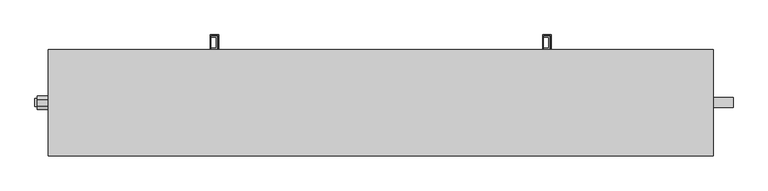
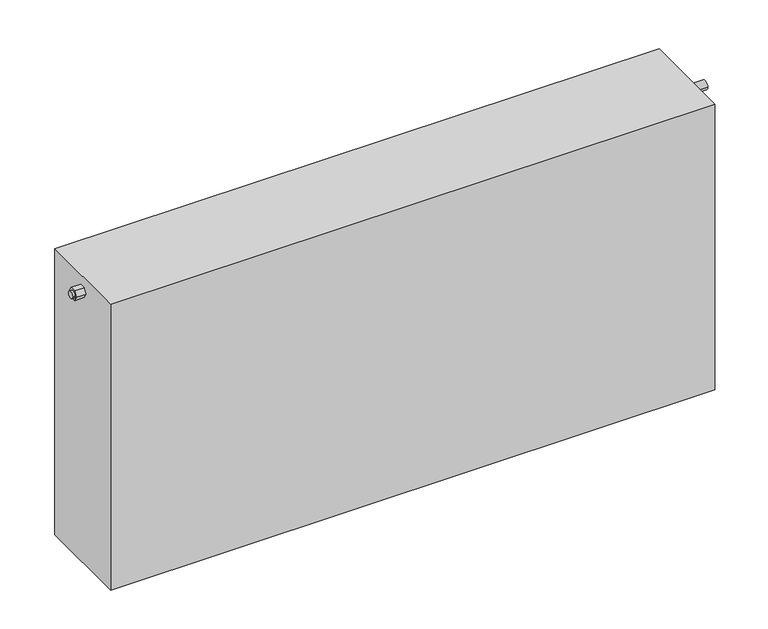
"""IFC4 building model written with IfcOpenShell, lengths in millimetres: proxy geometry, ADSK_Радиатор_СтальнойПанельный : 33_500_1000."""

from ifc_helpers import new_model, si_unit, point, frame, frame_2d, origin, place, context, project, spatial, polyline, circle_curve, trimmed, segment, composite_curve, outline, extrude, source, transform, mapped, element, save
from ifc_brep_helpers import plane_surface, cylinder_surface, advanced_brep


def mechanical_equipment_f235ed72(model_context):
    return source(origin(), model_context, "Body", "SolidModel", [
        extrude(outline(polyline([(454.542649, -29.589015), (454.542649, -49.589015), (445.411704, -49.589015), (445.411704, -47.609118), (452.490403, -47.609118), (452.490403, -38.8242061), (452.490403, -31.5689121), (445.411704, -31.5689121), (445.411704, -29.589015), (454.542649, -29.589015)])), frame((0.0, 0.0, 175.0), z_axis=(0.0, 0.0, 1.0), x_axis=(1.0, 0.0, 0.0)), (0.0, 0.0, 1.0), 350.0),
        extrude(outline(polyline([(456.3350832, -27.7938187), (456.3350832, -73.0037765), (443.3943158, -73.0037765), (443.3943158, -27.7938187), (456.3350832, -27.7938187)]), holes=[polyline([(454.9194272, -29.2790933), (445.0216716, -29.2790933), (445.0216716, -50.0), (454.9194272, -50.0), (454.9194272, -29.2790933)])]), frame((0.0, 0.0, 490.0061306), z_axis=(0.0, 0.0, 1.0), x_axis=(1.0, 0.0, 0.0)), (0.0, 0.0, 1.0), 9.9938694),
        extrude(outline(polyline([(456.3350832, -27.7938187), (456.3350832, -73.0037765), (443.3943158, -73.0037765), (443.3943158, -27.7938187), (456.3350832, -27.7938187)]), holes=[polyline([(454.9194272, -29.2790933), (445.0216716, -29.2790933), (445.0216716, -50.0), (454.9194272, -50.0), (454.9194272, -29.2790933)])]), frame((0.0, 0.0, 200.0), z_axis=(0.0, 0.0, 1.0), x_axis=(1.0, 0.0, 0.0)), (0.0, 0.0, 1.0), 9.9938694),
        extrude(outline(polyline([(-45.457351, -29.589015), (-45.457351, -49.589015), (-54.588296, -49.589015), (-54.588296, -47.609118), (-47.509597, -47.609118), (-47.509597, -38.8242061), (-47.509597, -31.5689121), (-54.588296, -31.5689121), (-54.588296, -29.589015), (-45.457351, -29.589015)])), frame((0.0, 0.0, 175.0), z_axis=(0.0, 0.0, 1.0), x_axis=(1.0, 0.0, 0.0)), (0.0, 0.0, 1.0), 350.0),
        extrude(outline(polyline([(-43.6649168, -27.7938187), (-43.6649168, -73.0037765), (-56.6056842, -73.0037765), (-56.6056842, -27.7938187), (-43.6649168, -27.7938187)]), holes=[polyline([(-45.0805728, -29.2790933), (-54.9783284, -29.2790933), (-54.9783284, -50.0), (-45.0805728, -50.0), (-45.0805728, -29.2790933)])]), frame((0.0, 0.0, 490.0061306), z_axis=(0.0, 0.0, 1.0), x_axis=(1.0, 0.0, 0.0)), (0.0, 0.0, 1.0), 9.9938694),
        extrude(outline(polyline([(-43.6649168, -27.7938187), (-43.6649168, -73.0037765), (-56.6056842, -73.0037765), (-56.6056842, -27.7938187), (-43.6649168, -27.7938187)]), holes=[polyline([(-45.0805728, -29.2790933), (-54.9783284, -29.2790933), (-54.9783284, -50.0), (-45.0805728, -50.0), (-45.0805728, -29.2790933)])]), frame((0.0, 0.0, 200.0), z_axis=(0.0, 0.0, 1.0), x_axis=(1.0, 0.0, 0.0)), (0.0, 0.0, 1.0), 9.9938694),
        extrude(outline(composite_curve([segment(trimmed(circle_curve(frame_2d((-130.0, 125.0)), 7.5), [point((-137.5, 125.0))], [point((-122.5, 125.0))], False, "CARTESIAN"), True, "CONTINUOUS"), segment(trimmed(circle_curve(frame_2d((-130.0, 125.0)), 7.5), [point((-122.5, 125.0))], [point((-137.5, 125.0))], False, "CARTESIAN"), True, "CONTINUOUS")], self_intersect=False)), frame((700.0, 0.0, 0.0), z_axis=(1.0, 0.0, 0.0), x_axis=(0.0, 1.0, 0.0)), (0.0, 0.0, 1.0), 30.0),
        extrude(outline(composite_curve([segment(trimmed(circle_curve(frame_2d((-130.0, 575.0)), 7.5), [point((-137.5, 575.0))], [point((-122.5, 575.0))], False, "CARTESIAN"), True, "CONTINUOUS"), segment(trimmed(circle_curve(frame_2d((-130.0, 575.0)), 7.5), [point((-122.5, 575.0))], [point((-137.5, 575.0))], False, "CARTESIAN"), True, "CONTINUOUS")], self_intersect=False)), frame((700.0, 0.0, 0.0), z_axis=(1.0, 0.0, 0.0), x_axis=(0.0, 1.0, 0.0)), (0.0, 0.0, 1.0), 30.0),
        extrude(outline(polyline([(700.0, -50.0), (700.0, -210.0), (-300.0, -210.0), (-300.0, -50.0), (700.0, -50.0)])), frame((0.0, 0.0, 100.0), z_axis=(0.0, 0.0, 1.0), x_axis=(1.0, 0.0, 0.0)), (0.0, 0.0, 1.0), 500.0),
        advanced_brep(
        [(-320.0, -136.0, 575.0), (-320.0, -124.0, 575.0), (-316.1885654, -124.0, 575.0), (-316.1885654, -136.0, 575.0), (-316.1885654, -135.0, 566.339746), (-316.1885654, -140.0, 575.0), (-316.1885654, -135.0, 583.660254), (-316.1885654, -125.0, 583.660254), (-316.1885654, -120.0, 575.0), (-316.1885654, -125.0, 566.339746), (-300.0, -135.0, 566.339746), (-300.0, -125.0, 566.339746), (-300.0, -120.0, 575.0), (-300.0, -125.0, 583.660254), (-300.0, -135.0, 583.660254), (-300.0, -140.0, 575.0)],
        [
            (0, 1, circle_curve(frame((-320.0, -130.0, 575.0), z_axis=(-1.0, 0.0, 0.0), x_axis=(0.0, 1.0, 0.0)), 6.0)),
            (1, 0, circle_curve(frame((-320.0, -130.0, 575.0), z_axis=(-1.0, 0.0, 0.0), x_axis=(0.0, 1.0, 0.0)), 6.0)),
            (1, 2),
            (2, 3, circle_curve(frame((-316.1885654, -130.0, 575.0), z_axis=(-1.0, 0.0, 0.0), x_axis=(0.0, 1.0, 0.0)), 6.0)),
            (3, 0),
            (3, 2, circle_curve(frame((-316.1885654, -130.0, 575.0), z_axis=(-1.0, 0.0, 0.0), x_axis=(0.0, 1.0, 0.0)), 6.0)),
            (4, 5),
            (5, 6),
            (6, 7),
            (7, 8),
            (8, 9),
            (9, 4),
            (10, 11),
            (11, 12),
            (12, 13),
            (13, 14),
            (14, 15),
            (15, 10),
            (9, 11),
            (10, 4),
            (8, 12),
            (7, 13),
            (6, 14),
            (5, 15),
        ],
        [
            plane_surface(frame((-320.0, -124.0, 575.0), z_axis=(-1.0, 0.0, 0.0), x_axis=(0.0, 0.0, -1.0))),
            cylinder_surface(frame((-320.0, -130.0, 575.0), z_axis=(1.0, 0.0, 0.0), x_axis=(0.0, 1.0, 0.0)), 6.0),
            plane_surface(frame((-316.1885654, -135.0, 566.339746), z_axis=(-1.0, 0.0, 0.0), x_axis=(0.0, -1.0, 0.0))),
            plane_surface(frame((-300.0, -135.0, 566.339746), z_axis=(1.0, 0.0, 0.0), x_axis=(0.0, 1.0, 0.0))),
            plane_surface(frame((-300.0, -135.0, 566.339746), z_axis=(0.0, 0.0, -1.0), x_axis=(-1.0, 0.0, 0.0))),
            plane_surface(frame((-300.0, -125.0, 566.339746), z_axis=(0.0, 0.8660254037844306, -0.500000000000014), x_axis=(-1.0, 0.0, 0.0))),
            plane_surface(frame((-300.0, -120.0, 575.0), z_axis=(0.0, 0.8660254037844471, 0.49999999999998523), x_axis=(-1.0, 0.0, 0.0))),
            plane_surface(frame((-300.0, -125.0, 583.660254), z_axis=(0.0, 0.0, 1.0), x_axis=(-1.0, 0.0, 0.0))),
            plane_surface(frame((-300.0, -135.0, 583.660254), z_axis=(0.0, -0.8660254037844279, 0.5000000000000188), x_axis=(-1.0, 0.0, 0.0))),
            plane_surface(frame((-300.0, -140.0, 575.0), z_axis=(0.0, -0.8660254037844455, -0.49999999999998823), x_axis=(-1.0, 0.0, 0.0))),
        ],
        [
            (0, [[1, 2]]),
            (1, [[-2, 3, 4, 5]]),
            (1, [[-1, -5, 6, -3]]),
            (2, [[7, 8, 9, 10, 11, 12], [-4, -6]]),
            (3, [[13, 14, 15, 16, 17, 18]]),
            (4, [[-12, 19, -13, 20]]),
            (5, [[-11, 21, -14, -19]]),
            (6, [[-10, 22, -15, -21]]),
            (7, [[-9, 23, -16, -22]]),
            (8, [[-8, 24, -17, -23]]),
            (9, [[-7, -20, -18, -24]]),
        ],
    ),
    ])


if __name__ == "__main__":
    model = new_model("IFC4")
    model_context = context("Model", 3, world=origin())
    ifc_project = project(units=[si_unit("LENGTHUNIT", "METRE", prefix="MILLI")], contexts=[model_context])
    site = spatial("IfcSite", under=ifc_project)
    building = spatial("IfcBuilding", under=site)
    placement = place(None, origin())
    mechanical_equipment_shape = mechanical_equipment_f235ed72(model_context)
    element("IfcBuildingElementProxy", 1, Name="ADSK_Радиатор_СтальнойПанельный : 33_500_1000", ObjectType="ADSK_Радиатор_СтальнойПанельный : 33_500_1000", at=placement, inside=building, context=model_context, shape_type="MappedRepresentation", body=[
        mapped(mechanical_equipment_shape, transform((0.0, 0.0, 0.0), x_axis=(1.0, 0.0, 0.0), y_axis=(0.0, 1.0, 0.0), z_axis=(0.0, 0.0, 1.0))),
    ])
    save(model, "model.ifc")
